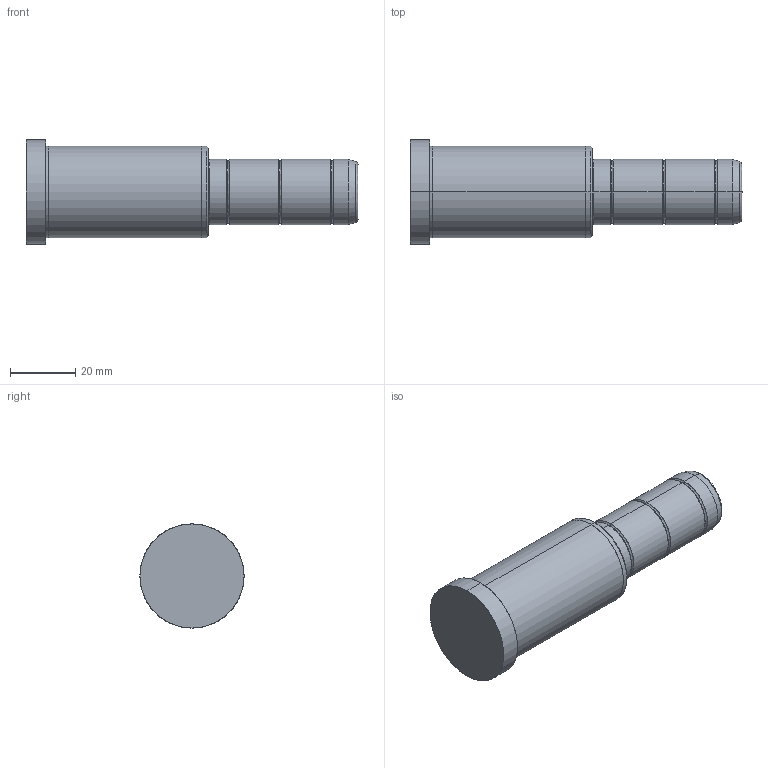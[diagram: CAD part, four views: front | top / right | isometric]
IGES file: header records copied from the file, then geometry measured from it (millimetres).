
Start section: SolidWorks IGES file using analytic representation for surfaces
Global section: file name: C:\Documents and Settings\kalite-mail\Desktop\IGS\D02\20\D02 - 20x56x46.IGS; native system: SolidWorks 2008; preprocessor: SolidWorks 2008; author: kalite-mail; date: 080616.162823; units: millimetre
Bounding box: 102 x 32 x 32 mm (x, y, z)
Surface area: 9500.6 mm2 (no closed solid volume)
Topology: 0 solids, 0 shells, 42 faces, 688 edges, 688 vertices
Faces by surface type: bspline 22, revolution 20
